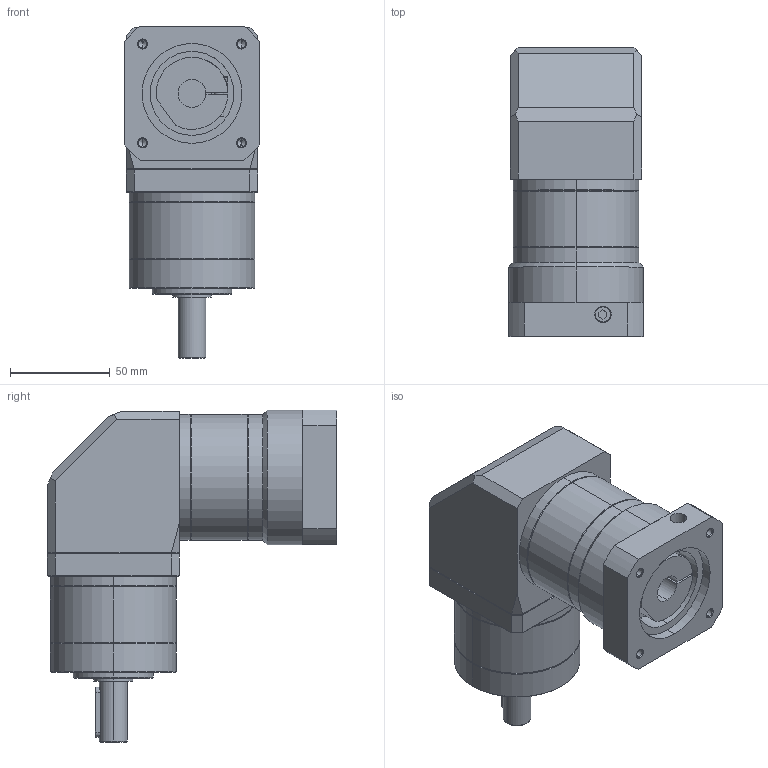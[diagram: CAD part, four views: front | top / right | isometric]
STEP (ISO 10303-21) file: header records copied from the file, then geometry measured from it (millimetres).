
FILE_DESCRIPTION(/* description */ (''),/* implementation_level */ '2;1');
FILE_NAME(/* name */ 'GPESR065-_3-100_ 外形图-∅14x36.5-∅50x6-∅70xM5-□67.5_step.stp',/* time_stamp */ '2025-03-24T15:09:32+08:00',/* author */ (''),/* organization */ (''),/* preprocessor_version */ 'ST-DEVELOPER v18.102',/* originating_system */ 'SIEMENS PLM Software NX 2027',/* authorisation */ '');
FILE_SCHEMA (('AUTOMOTIVE_DESIGN { 1 0 10303 214 3 1 1 1 }'));
Length unit declared in the file: millimetre
Products named in the file (1): GPESR065-_3-100_ 外形图-∅14x34-∅5
0x6-∅70xM5-□65_step_objects
Bounding box: 67.5 x 144.75 x 166.25 mm (x, y, z)
Volume: 732638.6 mm3; surface area: 66876.1 mm2
Topology: 1 solids, 1 shells, 218 faces, 500 edges, 289 vertices
Faces by surface type: plane 91, cylinder 66, cone 53, torus 8
Entity records: 6042 total; most frequent: DIRECTION 1090, CARTESIAN_POINT 1081, ORIENTED_EDGE 964, EDGE_CURVE 482, AXIS2_PLACEMENT_3D 398, LINE 294, VECTOR 294, VERTEX_POINT 289
